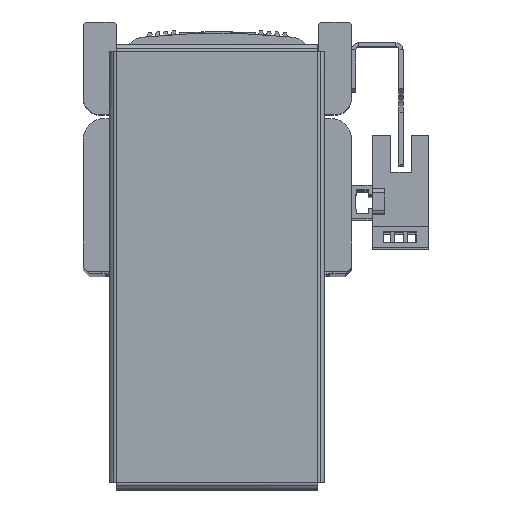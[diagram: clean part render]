
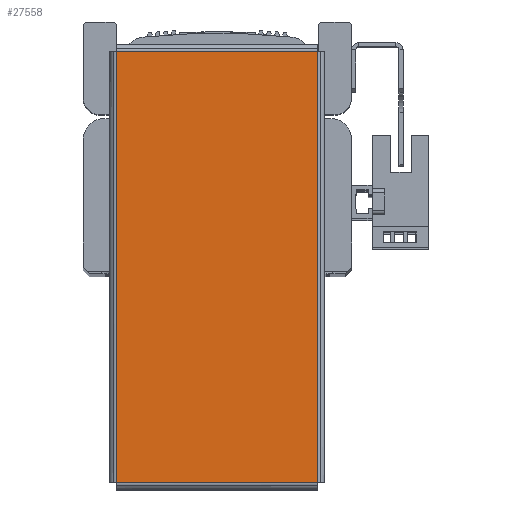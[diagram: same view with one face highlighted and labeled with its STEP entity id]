
A CAD part, top view. The second image highlights one B-rep face of the part: STEP entity #27558.
In plain terms, the highlighted planar face has unit normal (0, 0, 1) as drawn and (0, 0, -1) by its records, which use the part's own axes.
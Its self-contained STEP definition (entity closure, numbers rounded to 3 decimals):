
#182 = EDGE_CURVE ( 'NONE', #16204, #16191, #19462, .T. ) ;
#228 = EDGE_CURVE ( 'NONE', #16207, #16190, #19609, .T. ) ;
#235 = EDGE_CURVE ( 'NONE', #16191, #16207, #19605, .T. ) ;
#262 = EDGE_CURVE ( 'NONE', #16190, #16204, #19575, .T. ) ;
#1476 = EDGE_LOOP ( 'NONE', ( #18516, #18367, #18381, #18514 ) ) ;
#5113 = AXIS2_PLACEMENT_3D ( 'NONE', #39797, #39809, #39763 ) ;
#7737 = CARTESIAN_POINT ( 'NONE',  ( -52.263, -24.363, -1. ) ) ;
#7767 = CARTESIAN_POINT ( 'NONE',  ( -52.263, 24.363, -1. ) ) ;
#7812 = CARTESIAN_POINT ( 'NONE',  ( 52.263, 24.363, -1. ) ) ;
#7828 = CARTESIAN_POINT ( 'NONE',  ( 52.263, -24.363, -1. ) ) ;
#11599 = DIRECTION ( 'NONE',  ( 0., 1., 0. ) ) ;
#11626 = CARTESIAN_POINT ( 'NONE',  ( -52.263, -24.393, -1. ) ) ;
#11772 = DIRECTION ( 'NONE',  ( 0., -1., 0. ) ) ;
#11791 = CARTESIAN_POINT ( 'NONE',  ( -52.293, 24.363, -1. ) ) ;
#11809 = CARTESIAN_POINT ( 'NONE',  ( 52.263, 24.393, -1. ) ) ;
#11818 = DIRECTION ( 'NONE',  ( 1., 0., 0. ) ) ;
#11971 = CARTESIAN_POINT ( 'NONE',  ( 52.293, -24.363, -1. ) ) ;
#11984 = DIRECTION ( 'NONE',  ( -1., 0., 0. ) ) ;
#16190 = VERTEX_POINT ( 'NONE', #7828 ) ;
#16191 = VERTEX_POINT ( 'NONE', #7767 ) ;
#16204 = VERTEX_POINT ( 'NONE', #7737 ) ;
#16207 = VERTEX_POINT ( 'NONE', #7812 ) ;
#18367 = ORIENTED_EDGE ( 'NONE', *, *, #262, .T. ) ;
#18381 = ORIENTED_EDGE ( 'NONE', *, *, #182, .T. ) ;
#18514 = ORIENTED_EDGE ( 'NONE', *, *, #235, .T. ) ;
#18516 = ORIENTED_EDGE ( 'NONE', *, *, #228, .T. ) ;
#19446 = VECTOR ( 'NONE', #11599, 1000. ) ;
#19462 = LINE ( 'NONE', #11626, #19446 ) ;
#19575 = LINE ( 'NONE', #11971, #19582 ) ;
#19582 = VECTOR ( 'NONE', #11984, 1000. ) ;
#19605 = LINE ( 'NONE', #11791, #19618 ) ;
#19609 = LINE ( 'NONE', #11809, #19619 ) ;
#19618 = VECTOR ( 'NONE', #11818, 1000. ) ;
#19619 = VECTOR ( 'NONE', #11772, 1000. ) ;
#27558 = ADVANCED_FACE ( 'NONE', ( #40535 ), #39769, .F. ) ;
#39763 = DIRECTION ( 'NONE',  ( 1., 0., 0. ) ) ;
#39769 = PLANE ( 'NONE',  #5113 ) ;
#39797 = CARTESIAN_POINT ( 'NONE',  ( 0., 0., -1. ) ) ;
#39809 = DIRECTION ( 'NONE',  ( 0., 0., 1. ) ) ;
#40535 = FACE_OUTER_BOUND ( 'NONE', #1476, .T. ) ;
